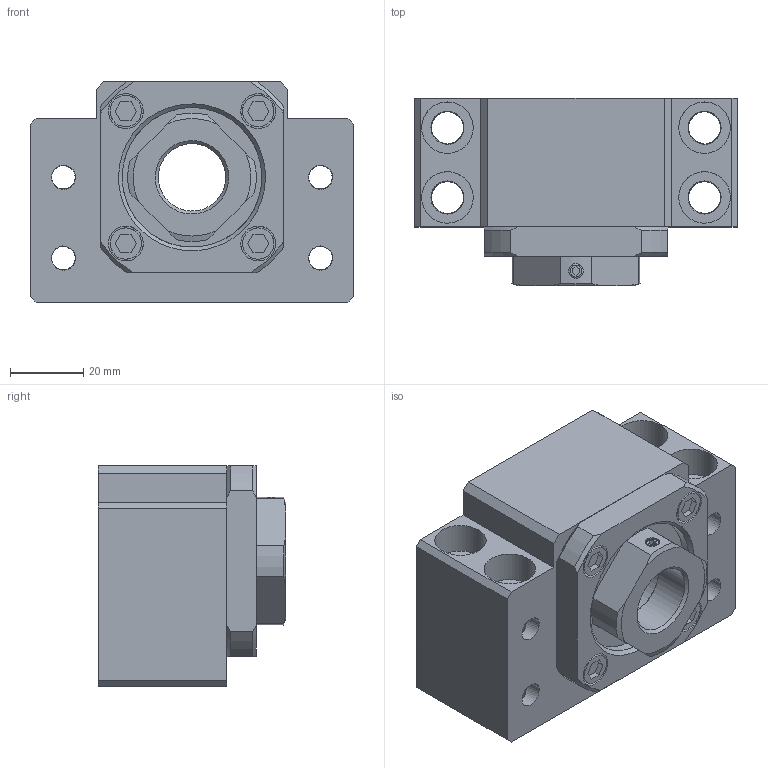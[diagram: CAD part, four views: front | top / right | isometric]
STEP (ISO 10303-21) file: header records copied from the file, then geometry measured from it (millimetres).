
FILE_DESCRIPTION( ('This file contains a STEP AP42 implementation' ,'as created by ZW3D STEP Interface translator.') ,'2;1' );
FILE_NAME( '3FE1F423-869D-D9BE-AF55-FCCEE9794211.stp' ,'18 315.171135', (''), ('ZWCAD Software Co.'), 'Version 1.0', 'ZW3D to STEP translator', '' );
FILE_SCHEMA( ('CONFIG_CONTROL_DESIGN') );
Length unit declared in the file: millimetre
Products named in the file (4): 0; FSFBK-20; _BK 20collar; _BK 20
Assembly tree (2 placements, depth 2):
  0
  FSFBK-20
    _BK 20collar
    _BK 20
Bounding box: 88 x 51 x 60 mm (x, y, z)
Volume: 162819.1 mm3; surface area: 44106.9 mm2
Topology: 2 solids, 3 shells, 161 faces, 411 edges, 275 vertices
Faces by surface type: bspline 161
Entity records: 6329 total; most frequent: CARTESIAN_POINT 3580, ORIENTED_EDGE 822, EDGE_CURVE 411, B_SPLINE_CURVE_WITH_KNOTS 296, VERTEX_POINT 275, EDGE_LOOP 216, FACE_OUTER_BOUND 161, ADVANCED_FACE 161
